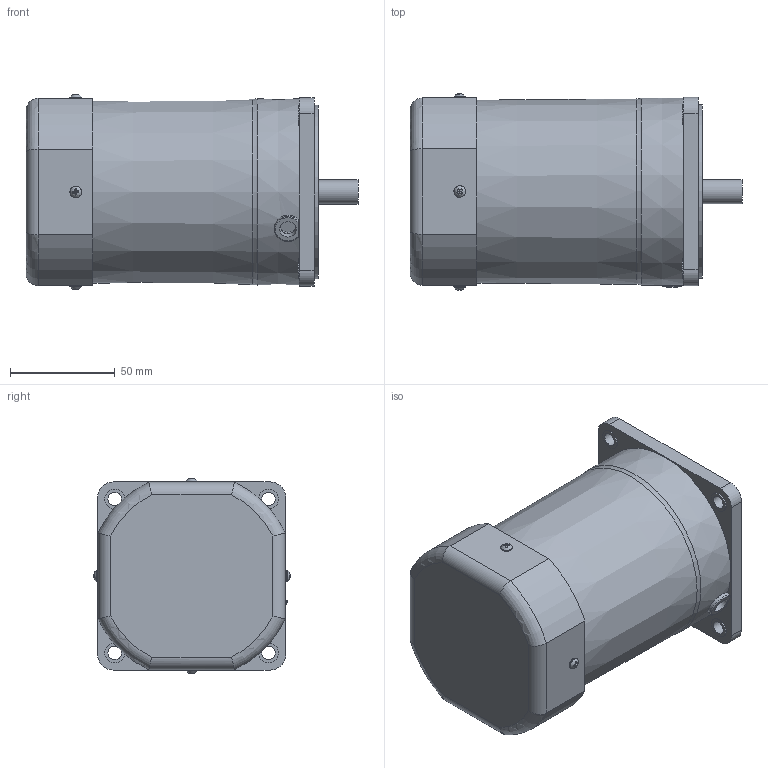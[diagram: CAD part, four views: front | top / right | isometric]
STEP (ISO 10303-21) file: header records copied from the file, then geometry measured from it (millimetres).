
FILE_DESCRIPTION((''),'2;1');
FILE_NAME('D:\STP파일\90W MOTOR\S9I90G.stp','2013-05-20T18:15:32',('leebh'),(''),'Autodesk Inventor 2011','Autodesk Inventor 2011','');
FILE_SCHEMA(('AUTOMOTIVE_DESIGN { 1 0 10303 214 1 1 1 1 }'));
Length unit declared in the file: millimetre
Products named in the file (1): 부품1
Bounding box: 158.8 x 93.94 x 93.51 mm (x, y, z)
Volume: 882313.4 mm3; surface area: 61455.2 mm2
Topology: 1 solids, 3 shells, 180 faces, 430 edges, 278 vertices
Faces by surface type: plane 107, cylinder 49, torus 14, cone 6, bspline 4
Full cylindrical faces by diameter (mm): 3 x4, 3.5 x4, 5.6 x4, 6.5 x4, 8 x1, 9.5 x4, 10 x1, 11.5 x1, 40 x1, 83 x1
Entity records: 5459 total; most frequent: CARTESIAN_POINT 1413, DIRECTION 784, ORIENTED_EDGE 754, EDGE_CURVE 377, AXIS2_PLACEMENT_3D 291, VERTEX_POINT 270, EDGE_LOOP 259, VECTOR 202
